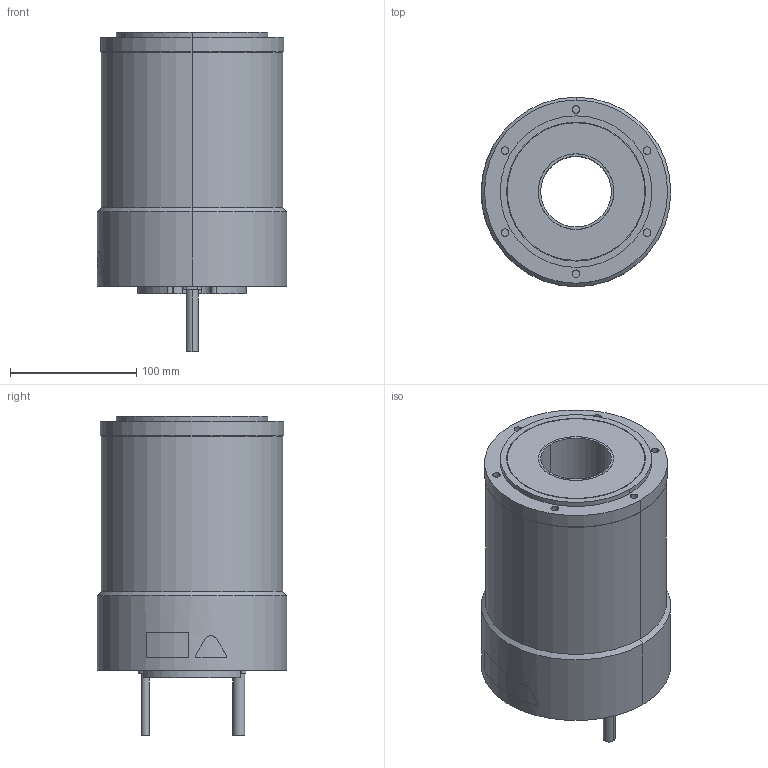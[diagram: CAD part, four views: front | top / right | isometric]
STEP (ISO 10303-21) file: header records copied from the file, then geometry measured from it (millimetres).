
FILE_DESCRIPTION (( 'STEP AP203' ), '1' );
FILE_NAME ('sgm7d_38j_c5_.STEP', '2016-02-23T02:17:23', ( '' ), ( '' ), 'SwSTEP 2.0', 'SolidWorks 2010', '' );
FILE_SCHEMA (( 'CONFIG_CONTROL_DESIGN' ));
Length unit declared in the file: millimetre
Products named in the file (1): sgm7d_38j_c5_
Bounding box: 150.06 x 150 x 253 mm (x, y, z)
Volume: 2805251.8 mm3; surface area: 169472.6 mm2
Topology: 1 solids, 1 shells, 170 faces, 397 edges, 262 vertices
Faces by surface type: cylinder 105, plane 56, bspline 5, cone 4
Entity records: 5276 total; most frequent: CARTESIAN_POINT 1131, DIRECTION 925, ORIENTED_EDGE 794, EDGE_CURVE 397, AXIS2_PLACEMENT_3D 378, VERTEX_POINT 262, CIRCLE 212, EDGE_LOOP 205
